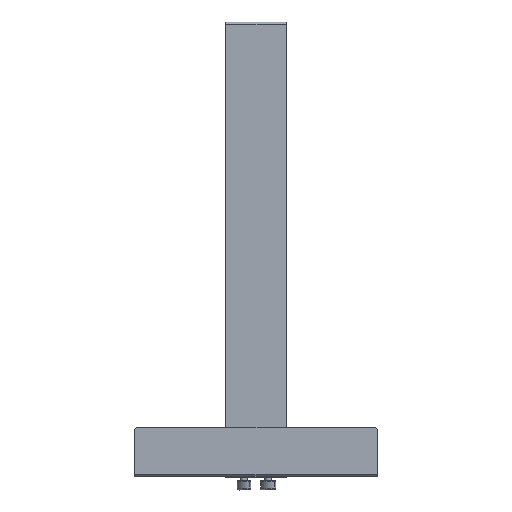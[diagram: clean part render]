
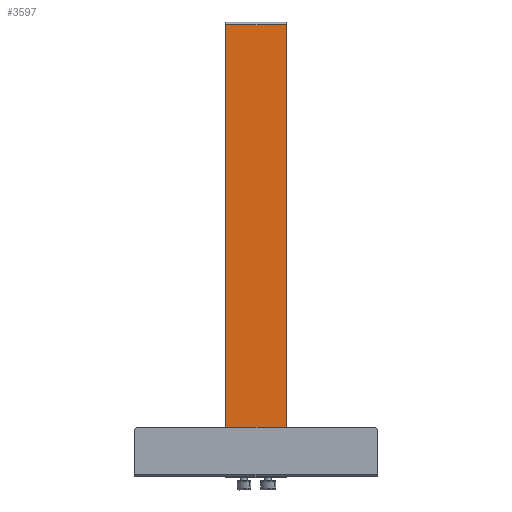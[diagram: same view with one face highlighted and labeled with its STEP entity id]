
A CAD part, top view. The second image highlights one B-rep face of the part: STEP entity #3597.
In plain terms, the highlighted planar face has unit normal (0, 0, 1).
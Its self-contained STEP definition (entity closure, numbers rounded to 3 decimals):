
#241=PLANE('',#4029);
#451=FACE_OUTER_BOUND('',#703,.T.);
#703=EDGE_LOOP('',(#3246,#3247,#3248,#3249));
#775=LINE('',#5445,#1051);
#979=LINE('',#6504,#1255);
#980=LINE('',#6506,#1256);
#981=LINE('',#6507,#1257);
#1051=VECTOR('',#4346,10.);
#1255=VECTOR('',#5092,10.);
#1256=VECTOR('',#5093,10.);
#1257=VECTOR('',#5094,10.);
#1511=VERTEX_POINT('',#5230);
#1595=VERTEX_POINT('',#5443);
#1789=VERTEX_POINT('',#6503);
#1790=VERTEX_POINT('',#6505);
#1933=EDGE_CURVE('',#1511,#1595,#775,.T.);
#2280=EDGE_CURVE('',#1789,#1595,#979,.T.);
#2281=EDGE_CURVE('',#1789,#1790,#980,.T.);
#2282=EDGE_CURVE('',#1511,#1790,#981,.T.);
#3246=ORIENTED_EDGE('',*,*,#1933,.T.);
#3247=ORIENTED_EDGE('',*,*,#2280,.F.);
#3248=ORIENTED_EDGE('',*,*,#2281,.T.);
#3249=ORIENTED_EDGE('',*,*,#2282,.F.);
#3597=ADVANCED_FACE('',(#451),#241,.T.);
#4029=AXIS2_PLACEMENT_3D('',#6502,#5090,#5091);
#4346=DIRECTION('',(1.,0.,0.));
#5090=DIRECTION('center_axis',(0.,0.,
1.));
#5091=DIRECTION('ref_axis',(1.,0.,0.));
#5092=DIRECTION('',(0.,-1.,0.));
#5093=DIRECTION('',(-1.,0.,0.));
#5094=DIRECTION('',(0.,1.,0.));
#5230=CARTESIAN_POINT('',(-50.,40.,31.));
#5443=CARTESIAN_POINT('',(50.,40.,31.));
#5445=CARTESIAN_POINT('',(100.,40.,31.));
#6502=CARTESIAN_POINT('Origin',(0.,373.,
31.));
#6503=CARTESIAN_POINT('',(50.,744.,31.));
#6504=CARTESIAN_POINT('',(50.,-2.,31.));
#6505=CARTESIAN_POINT('',(-50.,744.,31.));
#6506=CARTESIAN_POINT('',(25.,744.,31.));
#6507=CARTESIAN_POINT('',(-50.,748.,31.));
